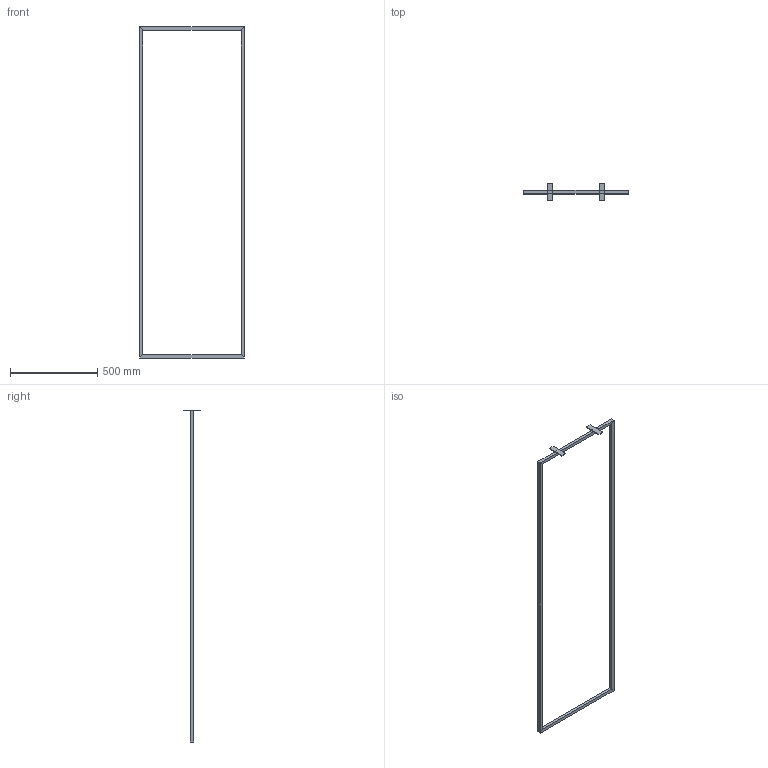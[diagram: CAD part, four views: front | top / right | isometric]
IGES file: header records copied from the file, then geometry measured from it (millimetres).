
Global section: file name: D:\Desktop\GIOVANNI\SCHEDE PRODOTTO\ACCESSORI\SERVETTO\3D\MOMA DESIGN_ACCESSORI_SERVETTO 3.igs; native system: Rhinoceros ( Jan 17 2018 ); preprocessor: Trout Lake IGES 012 Jan 17 2018; date: 230523.113554; units: millimetre
Bounding box: 600.19 x 100 x 1905.08 mm (x, y, z)
Surface area: 374794.2 mm2 (no closed solid volume)
Topology: 0 solids, 0 shells, 36 faces, 168 edges, 168 vertices
Faces by surface type: bspline 36
